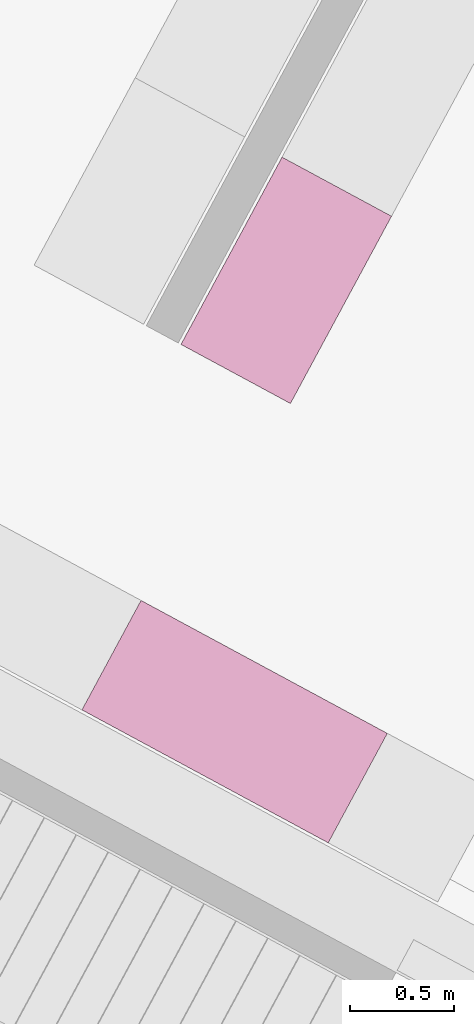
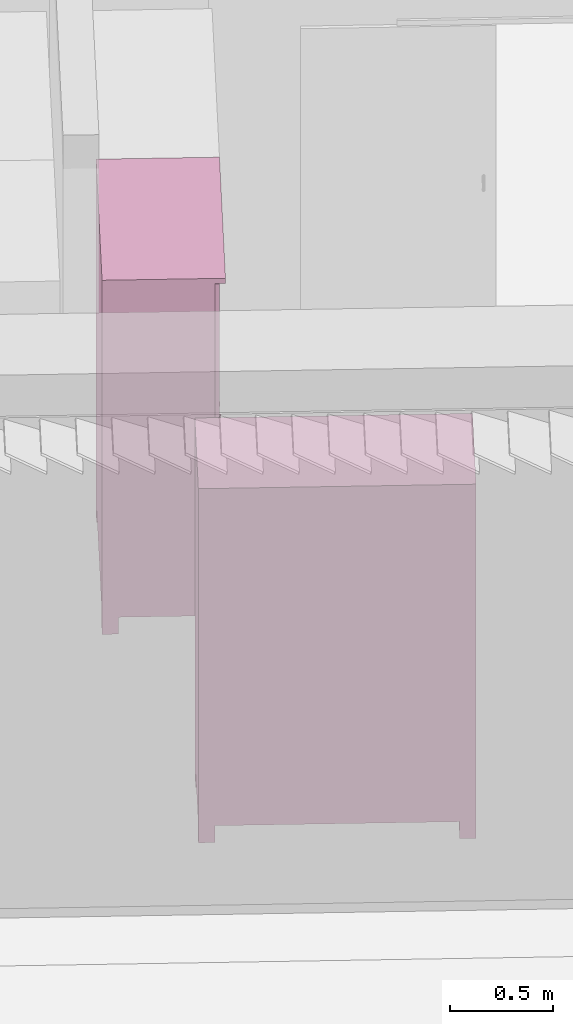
# One storey, part 28 of 41: 2 furnishings.
"""IFC2X3 building model written with IfcOpenShell, lengths in metres."""

from ifc_helpers import new_model, entity, si_unit, converted_unit, derived_unit, money_unit, direction, frame, origin_with_axes, place, context, subcontext, project, spatial, faceted_brep, type_object, element, save


model = new_model("IFC2X3")

# Units and contexts
model_context = context("Model", 3, precision=1e-05, world=origin_with_axes(), true_north=direction((0.0, 1.0)))
body_context = subcontext(model_context, "Body", "Model", "MODEL_VIEW")
ifc_project = project(units=[si_unit("LENGTHUNIT", "METRE"), si_unit("AREAUNIT", "SQUARE_METRE"), si_unit("VOLUMEUNIT", "CUBIC_METRE"), converted_unit("PLANEANGLEUNIT", "DEGREE", entity("IfcPlaneAngleMeasure", 0.0174532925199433), si_unit("PLANEANGLEUNIT", "RADIAN"), dimensions=[0, 0, 0, 0, 0, 0, 0]), money_unit("EUR"), converted_unit("TIMEUNIT", "Year", entity("IfcTimeMeasure", 31556926.0), si_unit("TIMEUNIT", "SECOND"), dimensions=[0, 0, 1, 0, 0, 0, 0]), si_unit("MASSUNIT", "GRAM", prefix="KILO"), si_unit("THERMODYNAMICTEMPERATUREUNIT", "DEGREE_CELSIUS"), si_unit("LUMINOUSINTENSITYUNIT", "LUMEN"), si_unit("ENERGYUNIT", "JOULE", prefix="MEGA"), derived_unit("THERMALCONDUCTANCEUNIT", [(si_unit("POWERUNIT", "WATT"), 1), (si_unit("LENGTHUNIT", "METRE"), -1), (si_unit("THERMODYNAMICTEMPERATUREUNIT", "KELVIN"), -1)]), derived_unit("SPECIFICHEATCAPACITYUNIT", [(si_unit("ENERGYUNIT", "JOULE"), 1), (si_unit("MASSUNIT", "GRAM", prefix="KILO"), -1), (si_unit("THERMODYNAMICTEMPERATUREUNIT", "KELVIN"), -1)]), derived_unit("MASSDENSITYUNIT", [(si_unit("MASSUNIT", "GRAM", prefix="KILO"), 1), (si_unit("VOLUMEUNIT", "CUBIC_METRE"), -1)])], contexts=[model_context])

# Site, building, storey
site_placement = place(None, frame((-3.949935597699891, 1.740105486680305, 0.0), z_axis=(0.0, 0.0, 1.0), x_axis=(0.8799804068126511, -0.475009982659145, 0.0)))
site = spatial("IfcSite", under=ifc_project, at=site_placement, Name="Gelände", CompositionType="ELEMENT")
building_placement = place(site_placement, origin_with_axes())
building = spatial("IfcBuilding", under=site, at=building_placement, Name="Gebäude", CompositionType="ELEMENT")
storey_placement = place(building_placement, frame((0.0, 0.0, 4.55), z_axis=(0.0, 0.0, 1.0), x_axis=(1.0, 0.0, 0.0)))
storey = spatial("IfcBuildingStorey", under=building, at=storey_placement, Name="Staffelgeschoss", CompositionType="ELEMENT", Elevation=4.55)

# Furnishings
furniture_type = type_object("IfcFurnitureType", Name="Kleiderschrank 22", AssemblyPlace="NOTDEFINED")
furnishing_1_placement = place(storey_placement, frame((17.20040854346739, 2.239992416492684, 0.0), z_axis=(0.0, 0.0, 1.0), x_axis=(-1.0, 0.0, 0.0)))
element("IfcFurnishingElement", 1, at=furnishing_1_placement, inside=storey, type_object=furniture_type, Name="Objekt-0066", ObjectType="FURNITURE", context=body_context, shape_type="Brep", body=[
    faceted_brep([(-0.02000000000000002, 0.6000000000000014, 0.12), (-0.02000000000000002, 0.6000000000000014, 2.05), (-0.02000000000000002, 0.5800000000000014, 2.05), (-0.02000000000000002, 0.5800000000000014, 0.12), (-1.330000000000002, 0.6000000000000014, 0.12), (-1.330000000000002, 0.6000000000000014, 2.05), (-1.330000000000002, 0.5800000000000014, 2.05), (-1.330000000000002, 0.5800000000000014, 0.12)], [[[0, 1, 2, 3]], [[4, 5, 1, 0]], [[1, 5, 6, 2]], [[3, 2, 6, 7]], [[0, 3, 7, 4]], [[7, 6, 5, 4]]]),
    faceted_brep([(-1.350000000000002, 0.05000000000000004, 0.1), (-1.350000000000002, 0.6000000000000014, 0.1), (-1.330000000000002, 0.6000000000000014, 0.1), (-1.330000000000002, 0.05000000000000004, 0.1), (-1.350000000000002, 0.05000000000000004, 2.07), (-1.350000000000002, 0.6000000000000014, 2.07), (-1.330000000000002, 0.6000000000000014, 2.07), (-1.330000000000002, 0.05000000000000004, 2.07)], [[[0, 1, 2, 3]], [[0, 4, 5, 1]], [[1, 5, 6, 2]], [[2, 6, 7, 3]], [[3, 7, 4, 0]], [[7, 6, 5, 4]]]),
    faceted_brep([(-0.02, 0.05000000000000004, 0.1), (-0.02, 0.6000000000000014, 0.1), (0.0, 0.6000000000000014, 0.1), (0.0, 0.05000000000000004, 0.1), (-0.02, 0.05000000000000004, 2.07), (-0.02, 0.6000000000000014, 2.07), (0.0, 0.6000000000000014, 2.07), (0.0, 0.05000000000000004, 2.07)], [[[0, 1, 2, 3]], [[0, 4, 5, 1]], [[1, 5, 6, 2]], [[2, 6, 7, 3]], [[3, 7, 4, 0]], [[7, 6, 5, 4]]]),
    faceted_brep([(-1.330000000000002, 0.05000000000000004, 0.1), (-1.330000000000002, 0.6000000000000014, 0.1), (-0.02000000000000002, 0.6000000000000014, 0.1), (-0.02000000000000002, 0.05000000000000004, 0.1), (-1.330000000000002, 0.05000000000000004, 0.12), (-1.330000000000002, 0.6000000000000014, 0.12), (-0.02000000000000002, 0.6000000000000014, 0.12), (-0.02000000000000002, 0.05000000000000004, 0.12)], [[[0, 1, 2, 3]], [[0, 4, 5, 1]], [[1, 5, 6, 2]], [[2, 6, 7, 3]], [[3, 7, 4, 0]], [[7, 6, 5, 4]]]),
    faceted_brep([(-1.330000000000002, 0.05000000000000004, 2.05), (-1.330000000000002, 0.6000000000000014, 2.05), (-0.02000000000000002, 0.6000000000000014, 2.05), (-0.02000000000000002, 0.05000000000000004, 2.05), (-1.330000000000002, 0.05000000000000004, 2.07), (-1.330000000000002, 0.6000000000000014, 2.07), (-0.02000000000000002, 0.6000000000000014, 2.07), (-0.02000000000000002, 0.05000000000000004, 2.07)], [[[0, 1, 2, 3]], [[0, 4, 5, 1]], [[1, 5, 6, 2]], [[2, 6, 7, 3]], [[3, 7, 4, 0]], [[7, 6, 5, 4]]]),
    faceted_brep([(-1.350000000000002, 0.6000000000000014, 2.07), (-1.350000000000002, 0.0, 2.07), (-1.350000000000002, 0.0, 2.1), (-1.350000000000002, 0.6000000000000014, 2.1), (0.0, 0.6000000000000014, 2.07), (0.0, 0.0, 2.07), (0.0, 0.0, 2.1), (0.0, 0.6000000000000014, 2.1)], [[[0, 1, 2, 3]], [[0, 4, 5, 1]], [[1, 5, 6, 2]], [[3, 2, 6, 7]], [[4, 0, 3, 7]], [[5, 4, 7, 6]]]),
    faceted_brep([(-0.08000000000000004, 0.5200000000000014, 0.0), (-0.08000000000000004, 0.5200000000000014, 0.1), (-0.08000000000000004, 0.6000000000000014, 0.1), (-0.08000000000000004, 0.6000000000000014, 0.0), (0.0, 0.5200000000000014, 0.0), (0.0, 0.5200000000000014, 0.1), (0.0, 0.6000000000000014, 0.1), (0.0, 0.6000000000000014, 0.0)], [[[0, 1, 2, 3]], [[4, 5, 1, 0]], [[1, 5, 6, 2]], [[3, 2, 6, 7]], [[0, 3, 7, 4]], [[7, 6, 5, 4]]]),
    faceted_brep([(-1.350000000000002, 0.5200000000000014, 0.0), (-1.350000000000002, 0.5200000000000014, 0.1), (-1.350000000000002, 0.6000000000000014, 0.1), (-1.350000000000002, 0.6000000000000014, 0.0), (-1.270000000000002, 0.5200000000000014, 0.0), (-1.270000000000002, 0.5200000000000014, 0.1), (-1.270000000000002, 0.6000000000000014, 0.1), (-1.270000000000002, 0.6000000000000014, 0.0)], [[[0, 1, 2, 3]], [[4, 5, 1, 0]], [[1, 5, 6, 2]], [[3, 2, 6, 7]], [[0, 3, 7, 4]], [[7, 6, 5, 4]]]),
    faceted_brep([(-0.08000000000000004, 0.05000000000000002, 0.0), (-0.08000000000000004, 0.05000000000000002, 0.1), (-0.08000000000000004, 0.13, 0.1), (-0.08000000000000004, 0.13, 0.0), (0.0, 0.05000000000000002, 0.0), (0.0, 0.05000000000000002, 0.1), (0.0, 0.13, 0.1), (0.0, 0.13, 0.0)], [[[0, 1, 2, 3]], [[4, 5, 1, 0]], [[1, 5, 6, 2]], [[3, 2, 6, 7]], [[0, 3, 7, 4]], [[7, 6, 5, 4]]]),
    faceted_brep([(-1.350000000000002, 0.05000000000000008, 0.0), (-1.350000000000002, 0.05000000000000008, 0.1), (-1.350000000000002, 0.1300000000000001, 0.1), (-1.350000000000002, 0.1300000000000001, 0.0), (-1.270000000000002, 0.05000000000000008, 0.0), (-1.270000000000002, 0.05000000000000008, 0.1), (-1.270000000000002, 0.1300000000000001, 0.1), (-1.270000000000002, 0.1300000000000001, 0.0)], [[[0, 1, 2, 3]], [[4, 5, 1, 0]], [[1, 5, 6, 2]], [[3, 2, 6, 7]], [[0, 3, 7, 4]], [[7, 6, 5, 4]]]),
    faceted_brep([(-0.6745000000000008, 0.05, 0.1104999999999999), (-0.6745000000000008, 0.03, 0.1104999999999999), (-0.6745000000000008, 0.03000000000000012, 2.0595), (-0.6745000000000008, 0.05000000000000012, 2.0595), (-0.6445000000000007, 0.05, 0.1405), (-0.6445000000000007, 0.03000000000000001, 0.1405), (-0.6445000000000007, 0.03000000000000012, 2.0295), (-0.6445000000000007, 0.05000000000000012, 2.0295)], [[[0, 1, 2, 3]], [[4, 5, 1, 0]], [[1, 5, 6, 2]], [[3, 2, 6, 7]], [[0, 3, 7, 4]], [[7, 6, 5, 4]]]),
    faceted_brep([(-0.04050000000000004, 0.05, 0.1405), (-0.04050000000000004, 0.03000000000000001, 0.1405), (-0.04050000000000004, 0.03000000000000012, 2.0295), (-0.04050000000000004, 0.05000000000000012, 2.0295), (-0.01050000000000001, 0.05, 0.1104999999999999), (-0.01050000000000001, 0.03, 0.1104999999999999), (-0.01050000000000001, 0.03000000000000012, 2.0595), (-0.01050000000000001, 0.05000000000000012, 2.0595)], [[[0, 1, 2, 3]], [[4, 5, 1, 0]], [[1, 5, 6, 2]], [[3, 2, 6, 7]], [[0, 3, 7, 4]], [[7, 6, 5, 4]]]),
    faceted_brep([(-0.01050000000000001, 0.05, 0.1104999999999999), (-0.01050000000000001, 0.03, 0.1104999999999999), (-0.6745000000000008, 0.03, 0.1104999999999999), (-0.6745000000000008, 0.05, 0.1104999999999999), (-0.04050000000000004, 0.05, 0.1405), (-0.04050000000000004, 0.03000000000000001, 0.1405), (-0.6445000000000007, 0.03000000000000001, 0.1405), (-0.6445000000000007, 0.05, 0.1405)], [[[0, 1, 2, 3]], [[4, 5, 1, 0]], [[1, 5, 6, 2]], [[3, 2, 6, 7]], [[0, 3, 7, 4]], [[7, 6, 5, 4]]]),
    faceted_brep([(-0.04050000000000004, 0.05000000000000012, 2.0295), (-0.04050000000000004, 0.03000000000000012, 2.0295), (-0.6445000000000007, 0.03000000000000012, 2.0295), (-0.6445000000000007, 0.05000000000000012, 2.0295), (-0.01050000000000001, 0.05000000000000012, 2.0595), (-0.01050000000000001, 0.03000000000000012, 2.0595), (-0.6745000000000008, 0.03000000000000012, 2.0595), (-0.6745000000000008, 0.05000000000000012, 2.0595)], [[[0, 1, 2, 3]], [[4, 5, 1, 0]], [[1, 5, 6, 2]], [[3, 2, 6, 7]], [[0, 3, 7, 4]], [[7, 6, 5, 4]]]),
    faceted_brep([(-0.6445000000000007, 0.04500000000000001, 0.1405), (-0.6445000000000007, 0.035, 0.1405), (-0.6445000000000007, 0.03500000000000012, 2.0295), (-0.6445000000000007, 0.04500000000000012, 2.0295), (-0.04050000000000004, 0.04500000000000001, 0.1405), (-0.04050000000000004, 0.035, 0.1405), (-0.04050000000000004, 0.03500000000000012, 2.0295), (-0.04050000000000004, 0.04500000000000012, 2.0295)], [[[0, 1, 2, 3]], [[4, 5, 1, 0]], [[1, 5, 6, 2]], [[3, 2, 6, 7]], [[0, 3, 7, 4]], [[7, 6, 5, 4]]]),
    faceted_brep([(-0.6343923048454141, 0.035, 0.954), (-0.6360000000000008, 0.035, 0.96), (-0.6343923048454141, 0.035, 0.966), (-0.6300000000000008, 0.035, 0.9703923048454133), (-0.6240000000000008, 0.035, 0.972), (-0.6180000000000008, 0.035, 0.9703923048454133), (-0.6136076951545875, 0.035, 0.966), (-0.6120000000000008, 0.035, 0.96), (-0.6136076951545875, 0.035, 0.954), (-0.6180000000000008, 0.035, 0.9496076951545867), (-0.6240000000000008, 0.035, 0.948), (-0.6300000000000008, 0.035, 0.9496076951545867), (-0.6343923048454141, 0.01, 0.954), (-0.6360000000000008, 0.01, 0.96), (-0.6343923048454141, 0.01, 0.966), (-0.6300000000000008, 0.01, 0.9703923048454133), (-0.6240000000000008, 0.01, 0.972), (-0.6180000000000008, 0.01, 0.9703923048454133), (-0.6136076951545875, 0.01, 0.966), (-0.6120000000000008, 0.01, 0.96), (-0.6136076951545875, 0.01, 0.954), (-0.6180000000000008, 0.01, 0.9496076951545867), (-0.6240000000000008, 0.01, 0.948), (-0.6300000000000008, 0.01, 0.9496076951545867)], [[[0, 1, 2, 3, 4, 5, 6, 7, 8, 9, 10, 11]], [[0, 12, 13, 1]], [[1, 13, 14, 2]], [[2, 14, 15, 3]], [[3, 15, 16, 4]], [[4, 16, 17, 5]], [[5, 17, 18, 6]], [[6, 18, 19, 7]], [[7, 19, 20, 8]], [[8, 20, 21, 9]], [[9, 21, 22, 10]], [[10, 22, 23, 11]], [[11, 23, 12, 0]], [[12, 23, 22, 21, 20, 19, 18, 17, 16, 15, 14, 13]]]),
    faceted_brep([(-1.340500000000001, 0.05, 0.1104999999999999), (-1.340500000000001, 0.03, 0.1104999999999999), (-1.340500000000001, 0.03000000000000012, 2.0595), (-1.340500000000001, 0.05000000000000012, 2.0595), (-1.310500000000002, 0.05, 0.1405), (-1.310500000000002, 0.03000000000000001, 0.1405), (-1.310500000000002, 0.03000000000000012, 2.0295), (-1.310500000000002, 0.05000000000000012, 2.0295)], [[[0, 1, 2, 3]], [[4, 5, 1, 0]], [[1, 5, 6, 2]], [[3, 2, 6, 7]], [[0, 3, 7, 4]], [[7, 6, 5, 4]]]),
    faceted_brep([(-0.7065000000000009, 0.05, 0.1405), (-0.7065000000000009, 0.03000000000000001, 0.1405), (-0.7065000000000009, 0.03000000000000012, 2.0295), (-0.7065000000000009, 0.05000000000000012, 2.0295), (-0.6765000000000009, 0.05, 0.1104999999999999), (-0.6765000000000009, 0.03, 0.1104999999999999), (-0.6765000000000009, 0.03000000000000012, 2.0595), (-0.6765000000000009, 0.05000000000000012, 2.0595)], [[[0, 1, 2, 3]], [[4, 5, 1, 0]], [[1, 5, 6, 2]], [[3, 2, 6, 7]], [[0, 3, 7, 4]], [[7, 6, 5, 4]]]),
    faceted_brep([(-0.6765000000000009, 0.05, 0.1104999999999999), (-0.6765000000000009, 0.03, 0.1104999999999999), (-1.340500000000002, 0.03, 0.1104999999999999), (-1.340500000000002, 0.05, 0.1104999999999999), (-0.7065000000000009, 0.05, 0.1405), (-0.7065000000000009, 0.03000000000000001, 0.1405), (-1.310500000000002, 0.03000000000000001, 0.1405), (-1.310500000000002, 0.05, 0.1405)], [[[0, 1, 2, 3]], [[4, 5, 1, 0]], [[1, 5, 6, 2]], [[3, 2, 6, 7]], [[0, 3, 7, 4]], [[7, 6, 5, 4]]]),
    faceted_brep([(-0.7065000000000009, 0.05000000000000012, 2.0295), (-0.7065000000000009, 0.03000000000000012, 2.0295), (-1.310500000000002, 0.03000000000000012, 2.0295), (-1.310500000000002, 0.05000000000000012, 2.0295), (-0.6765000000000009, 0.05000000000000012, 2.0595), (-0.6765000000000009, 0.03000000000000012, 2.0595), (-1.340500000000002, 0.03000000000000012, 2.0595), (-1.340500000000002, 0.05000000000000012, 2.0595)], [[[0, 1, 2, 3]], [[4, 5, 1, 0]], [[1, 5, 6, 2]], [[3, 2, 6, 7]], [[0, 3, 7, 4]], [[7, 6, 5, 4]]]),
    faceted_brep([(-1.310500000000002, 0.04500000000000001, 0.1405), (-1.310500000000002, 0.04000000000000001, 0.1405), (-1.310500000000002, 0.04000000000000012, 2.0295), (-1.310500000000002, 0.04500000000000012, 2.0295), (-0.7065000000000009, 0.04500000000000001, 0.1405), (-0.7065000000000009, 0.04000000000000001, 0.1405), (-0.7065000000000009, 0.04000000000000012, 2.0295), (-0.7065000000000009, 0.04500000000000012, 2.0295)], [[[0, 1, 2, 3]], [[4, 5, 1, 0]], [[1, 5, 6, 2]], [[3, 2, 6, 7]], [[0, 3, 7, 4]], [[7, 6, 5, 4]]]),
    faceted_brep([(-1.310500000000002, 0.04000000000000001, 0.1405), (-1.310500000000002, 0.03500000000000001, 0.1405), (-1.310500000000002, 0.03500000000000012, 2.0295), (-1.310500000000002, 0.04000000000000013, 2.0295), (-0.7065000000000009, 0.04000000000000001, 0.1405), (-0.7065000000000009, 0.03500000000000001, 0.1405), (-0.7065000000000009, 0.03500000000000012, 2.0295), (-0.7065000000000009, 0.04000000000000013, 2.0295)], [[[0, 1, 2, 3]], [[4, 5, 1, 0]], [[1, 5, 6, 2]], [[3, 2, 6, 7]], [[0, 3, 7, 4]], [[7, 6, 5, 4]]]),
    faceted_brep([(-0.7156076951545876, 0.035, 0.954), (-0.7200000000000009, 0.035, 0.9496076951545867), (-0.7260000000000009, 0.035, 0.948), (-0.7320000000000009, 0.035, 0.9496076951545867), (-0.7363923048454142, 0.035, 0.954), (-0.7380000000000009, 0.035, 0.96), (-0.7363923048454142, 0.035, 0.966), (-0.7320000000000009, 0.035, 0.9703923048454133), (-0.7260000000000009, 0.035, 0.972), (-0.7200000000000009, 0.035, 0.9703923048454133), (-0.7156076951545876, 0.035, 0.966), (-0.7140000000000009, 0.035, 0.96), (-0.7156076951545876, 0.01, 0.954), (-0.7200000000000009, 0.01, 0.9496076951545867), (-0.7260000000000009, 0.01, 0.948), (-0.7320000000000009, 0.01, 0.9496076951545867), (-0.7363923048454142, 0.01, 0.954), (-0.7380000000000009, 0.01, 0.96), (-0.7363923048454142, 0.01, 0.966), (-0.7320000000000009, 0.01, 0.9703923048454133), (-0.7260000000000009, 0.01, 0.972), (-0.7200000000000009, 0.01, 0.9703923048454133), (-0.7156076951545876, 0.01, 0.966), (-0.7140000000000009, 0.01, 0.96)], [[[0, 1, 2, 3, 4, 5, 6, 7, 8, 9, 10, 11]], [[1, 0, 12, 13]], [[2, 1, 13, 14]], [[3, 2, 14, 15]], [[4, 3, 15, 16]], [[5, 4, 16, 17]], [[6, 5, 17, 18]], [[7, 6, 18, 19]], [[8, 7, 19, 20]], [[9, 8, 20, 21]], [[10, 9, 21, 22]], [[11, 10, 22, 23]], [[0, 11, 23, 12]], [[12, 23, 22, 21, 20, 19, 18, 17, 16, 15, 14, 13]]]),
])
furnishing_2_placement = place(storey_placement, frame((17.38349488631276, 4.444526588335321, 0.0), z_axis=(0.0, 0.0, 1.0), x_axis=(0.0, 1.0, 0.0)))
element("IfcFurnishingElement", 2, at=furnishing_2_placement, inside=storey, type_object=furniture_type, Name="Objekt-0066", ObjectType="FURNITURE", context=body_context, shape_type="Brep", body=[
    faceted_brep([(-0.02000000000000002, 0.6000000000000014, 0.12), (-0.02000000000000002, 0.6000000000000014, 2.05), (-0.02000000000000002, 0.5800000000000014, 2.05), (-0.02000000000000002, 0.5800000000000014, 0.12), (-1.006465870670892, 0.6000000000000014, 0.12), (-1.006465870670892, 0.6000000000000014, 2.05), (-1.006465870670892, 0.5800000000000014, 2.05), (-1.006465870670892, 0.5800000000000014, 0.12)], [[[0, 1, 2, 3]], [[4, 5, 1, 0]], [[1, 5, 6, 2]], [[3, 2, 6, 7]], [[0, 3, 7, 4]], [[7, 6, 5, 4]]]),
    faceted_brep([(-1.026465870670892, 0.05000000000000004, 0.1), (-1.026465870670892, 0.6000000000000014, 0.1), (-1.006465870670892, 0.6000000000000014, 0.1), (-1.006465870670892, 0.05000000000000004, 0.1), (-1.026465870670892, 0.05000000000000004, 2.07), (-1.026465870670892, 0.6000000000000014, 2.07), (-1.006465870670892, 0.6000000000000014, 2.07), (-1.006465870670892, 0.05000000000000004, 2.07)], [[[0, 1, 2, 3]], [[0, 4, 5, 1]], [[1, 5, 6, 2]], [[2, 6, 7, 3]], [[3, 7, 4, 0]], [[7, 6, 5, 4]]]),
    faceted_brep([(-0.02, 0.05000000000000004, 0.1), (-0.02, 0.6000000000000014, 0.1), (0.0, 0.6000000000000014, 0.1), (0.0, 0.05000000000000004, 0.1), (-0.02, 0.05000000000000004, 2.07), (-0.02, 0.6000000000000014, 2.07), (0.0, 0.6000000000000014, 2.07), (0.0, 0.05000000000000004, 2.07)], [[[0, 1, 2, 3]], [[0, 4, 5, 1]], [[1, 5, 6, 2]], [[2, 6, 7, 3]], [[3, 7, 4, 0]], [[7, 6, 5, 4]]]),
    faceted_brep([(-1.006465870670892, 0.05000000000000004, 0.1), (-1.006465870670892, 0.6000000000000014, 0.1), (-0.02000000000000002, 0.6000000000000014, 0.1), (-0.02000000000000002, 0.05000000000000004, 0.1), (-1.006465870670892, 0.05000000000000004, 0.12), (-1.006465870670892, 0.6000000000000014, 0.12), (-0.02000000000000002, 0.6000000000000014, 0.12), (-0.02000000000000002, 0.05000000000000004, 0.12)], [[[0, 1, 2, 3]], [[0, 4, 5, 1]], [[1, 5, 6, 2]], [[2, 6, 7, 3]], [[3, 7, 4, 0]], [[7, 6, 5, 4]]]),
    faceted_brep([(-1.006465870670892, 0.05000000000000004, 2.05), (-1.006465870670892, 0.6000000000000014, 2.05), (-0.02000000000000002, 0.6000000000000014, 2.05), (-0.02000000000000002, 0.05000000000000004, 2.05), (-1.006465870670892, 0.05000000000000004, 2.07), (-1.006465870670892, 0.6000000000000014, 2.07), (-0.02000000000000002, 0.6000000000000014, 2.07), (-0.02000000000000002, 0.05000000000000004, 2.07)], [[[0, 1, 2, 3]], [[0, 4, 5, 1]], [[1, 5, 6, 2]], [[2, 6, 7, 3]], [[3, 7, 4, 0]], [[7, 6, 5, 4]]]),
    faceted_brep([(-1.026465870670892, 0.6000000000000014, 2.07), (-1.026465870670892, 0.0, 2.07), (-1.026465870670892, 0.0, 2.1), (-1.026465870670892, 0.6000000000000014, 2.1), (0.0, 0.6000000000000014, 2.07), (0.0, 0.0, 2.07), (0.0, 0.0, 2.1), (0.0, 0.6000000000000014, 2.1)], [[[0, 1, 2, 3]], [[0, 4, 5, 1]], [[1, 5, 6, 2]], [[3, 2, 6, 7]], [[4, 0, 3, 7]], [[5, 4, 7, 6]]]),
    faceted_brep([(-0.07999999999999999, 0.5200000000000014, 0.0), (-0.07999999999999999, 0.5200000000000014, 0.1), (-0.07999999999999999, 0.6000000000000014, 0.1), (-0.07999999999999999, 0.6000000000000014, 0.0), (0.0, 0.5200000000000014, 0.0), (0.0, 0.5200000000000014, 0.1), (0.0, 0.6000000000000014, 0.1), (0.0, 0.6000000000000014, 0.0)], [[[0, 1, 2, 3]], [[4, 5, 1, 0]], [[1, 5, 6, 2]], [[3, 2, 6, 7]], [[0, 3, 7, 4]], [[7, 6, 5, 4]]]),
    faceted_brep([(-1.026465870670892, 0.5200000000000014, 0.0), (-1.026465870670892, 0.5200000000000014, 0.1), (-1.026465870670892, 0.6000000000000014, 0.1), (-1.026465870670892, 0.6000000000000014, 0.0), (-0.9464658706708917, 0.5200000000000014, 0.0), (-0.9464658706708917, 0.5200000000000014, 0.1), (-0.9464658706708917, 0.6000000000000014, 0.1), (-0.9464658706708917, 0.6000000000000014, 0.0)], [[[0, 1, 2, 3]], [[4, 5, 1, 0]], [[1, 5, 6, 2]], [[3, 2, 6, 7]], [[0, 3, 7, 4]], [[7, 6, 5, 4]]]),
    faceted_brep([(-0.07999999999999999, 0.05000000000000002, 0.0), (-0.07999999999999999, 0.05000000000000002, 0.1), (-0.07999999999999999, 0.13, 0.1), (-0.07999999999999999, 0.13, 0.0), (0.0, 0.05000000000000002, 0.0), (0.0, 0.05000000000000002, 0.1), (0.0, 0.13, 0.1), (0.0, 0.13, 0.0)], [[[0, 1, 2, 3]], [[4, 5, 1, 0]], [[1, 5, 6, 2]], [[3, 2, 6, 7]], [[0, 3, 7, 4]], [[7, 6, 5, 4]]]),
    faceted_brep([(-1.026465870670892, 0.05000000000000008, 0.0), (-1.026465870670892, 0.05000000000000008, 0.1), (-1.026465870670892, 0.1300000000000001, 0.1), (-1.026465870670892, 0.1300000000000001, 0.0), (-0.9464658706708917, 0.05000000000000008, 0.0), (-0.9464658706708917, 0.05000000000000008, 0.1), (-0.9464658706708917, 0.1300000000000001, 0.1), (-0.9464658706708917, 0.1300000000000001, 0.0)], [[[0, 1, 2, 3]], [[4, 5, 1, 0]], [[1, 5, 6, 2]], [[3, 2, 6, 7]], [[0, 3, 7, 4]], [[7, 6, 5, 4]]]),
    faceted_brep([(-0.512732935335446, 0.05, 0.1104999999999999), (-0.512732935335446, 0.03, 0.1104999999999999), (-0.512732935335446, 0.03000000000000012, 2.0595), (-0.512732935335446, 0.05000000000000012, 2.0595), (-0.4827329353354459, 0.05, 0.1405), (-0.4827329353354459, 0.03000000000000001, 0.1405), (-0.4827329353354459, 0.03000000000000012, 2.0295), (-0.4827329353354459, 0.05000000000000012, 2.0295)], [[[0, 1, 2, 3]], [[4, 5, 1, 0]], [[1, 5, 6, 2]], [[3, 2, 6, 7]], [[0, 3, 7, 4]], [[7, 6, 5, 4]]]),
    faceted_brep([(-0.04050000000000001, 0.05, 0.1405), (-0.04050000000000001, 0.03000000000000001, 0.1405), (-0.04050000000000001, 0.03000000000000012, 2.0295), (-0.04050000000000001, 0.05000000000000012, 2.0295), (-0.01050000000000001, 0.05, 0.1104999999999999), (-0.01050000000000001, 0.03, 0.1104999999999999), (-0.01050000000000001, 0.03000000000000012, 2.0595), (-0.01050000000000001, 0.05000000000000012, 2.0595)], [[[0, 1, 2, 3]], [[4, 5, 1, 0]], [[1, 5, 6, 2]], [[3, 2, 6, 7]], [[0, 3, 7, 4]], [[7, 6, 5, 4]]]),
    faceted_brep([(-0.01050000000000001, 0.05, 0.1104999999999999), (-0.01050000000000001, 0.03, 0.1104999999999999), (-0.512732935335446, 0.03, 0.1104999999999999), (-0.512732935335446, 0.05, 0.1104999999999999), (-0.04050000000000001, 0.05, 0.1405), (-0.04050000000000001, 0.03000000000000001, 0.1405), (-0.4827329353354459, 0.03000000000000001, 0.1405), (-0.4827329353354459, 0.05, 0.1405)], [[[0, 1, 2, 3]], [[4, 5, 1, 0]], [[1, 5, 6, 2]], [[3, 2, 6, 7]], [[0, 3, 7, 4]], [[7, 6, 5, 4]]]),
    faceted_brep([(-0.04050000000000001, 0.05000000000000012, 2.0295), (-0.04050000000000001, 0.03000000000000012, 2.0295), (-0.4827329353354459, 0.03000000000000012, 2.0295), (-0.4827329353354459, 0.05000000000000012, 2.0295), (-0.01050000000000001, 0.05000000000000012, 2.0595), (-0.01050000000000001, 0.03000000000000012, 2.0595), (-0.512732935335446, 0.03000000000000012, 2.0595), (-0.512732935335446, 0.05000000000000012, 2.0595)], [[[0, 1, 2, 3]], [[4, 5, 1, 0]], [[1, 5, 6, 2]], [[3, 2, 6, 7]], [[0, 3, 7, 4]], [[7, 6, 5, 4]]]),
    faceted_brep([(-0.4827329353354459, 0.04500000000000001, 0.1405), (-0.4827329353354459, 0.035, 0.1405), (-0.4827329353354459, 0.03500000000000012, 2.0295), (-0.4827329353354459, 0.04500000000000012, 2.0295), (-0.04050000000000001, 0.04500000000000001, 0.1405), (-0.04050000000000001, 0.035, 0.1405), (-0.04050000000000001, 0.03500000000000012, 2.0295), (-0.04050000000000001, 0.04500000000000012, 2.0295)], [[[0, 1, 2, 3]], [[4, 5, 1, 0]], [[1, 5, 6, 2]], [[3, 2, 6, 7]], [[0, 3, 7, 4]], [[7, 6, 5, 4]]]),
    faceted_brep([(-0.4726252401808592, 0.035, 0.954), (-0.4742329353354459, 0.035, 0.96), (-0.4726252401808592, 0.035, 0.966), (-0.4682329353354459, 0.035, 0.9703923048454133), (-0.4622329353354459, 0.035, 0.972), (-0.4562329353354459, 0.035, 0.9703923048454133), (-0.4518406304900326, 0.035, 0.966), (-0.4502329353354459, 0.035, 0.96), (-0.4518406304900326, 0.035, 0.954), (-0.4562329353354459, 0.035, 0.9496076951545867), (-0.4622329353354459, 0.035, 0.948), (-0.4682329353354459, 0.035, 0.9496076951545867), (-0.4726252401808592, 0.01, 0.954), (-0.4742329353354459, 0.01, 0.96), (-0.4726252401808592, 0.01, 0.966), (-0.4682329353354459, 0.01, 0.9703923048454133), (-0.4622329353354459, 0.01, 0.972), (-0.4562329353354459, 0.01, 0.9703923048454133), (-0.4518406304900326, 0.01, 0.966), (-0.4502329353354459, 0.01, 0.96), (-0.4518406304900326, 0.01, 0.954), (-0.4562329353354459, 0.01, 0.9496076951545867), (-0.4622329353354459, 0.01, 0.948), (-0.4682329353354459, 0.01, 0.9496076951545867)], [[[0, 1, 2, 3, 4, 5, 6, 7, 8, 9, 10, 11]], [[0, 12, 13, 1]], [[1, 13, 14, 2]], [[2, 14, 15, 3]], [[3, 15, 16, 4]], [[4, 16, 17, 5]], [[5, 17, 18, 6]], [[6, 18, 19, 7]], [[7, 19, 20, 8]], [[8, 20, 21, 9]], [[9, 21, 22, 10]], [[10, 22, 23, 11]], [[11, 23, 12, 0]], [[12, 23, 22, 21, 20, 19, 18, 17, 16, 15, 14, 13]]]),
    faceted_brep([(-1.016965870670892, 0.05, 0.1104999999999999), (-1.016965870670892, 0.03, 0.1104999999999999), (-1.016965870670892, 0.03000000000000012, 2.0595), (-1.016965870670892, 0.05000000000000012, 2.0595), (-0.9869658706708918, 0.05, 0.1405), (-0.9869658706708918, 0.03000000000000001, 0.1405), (-0.9869658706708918, 0.03000000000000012, 2.0295), (-0.9869658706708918, 0.05000000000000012, 2.0295)], [[[0, 1, 2, 3]], [[4, 5, 1, 0]], [[1, 5, 6, 2]], [[3, 2, 6, 7]], [[0, 3, 7, 4]], [[7, 6, 5, 4]]]),
    faceted_brep([(-0.5447329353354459, 0.05, 0.1405), (-0.5447329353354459, 0.03000000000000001, 0.1405), (-0.5447329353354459, 0.03000000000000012, 2.0295), (-0.5447329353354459, 0.05000000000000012, 2.0295), (-0.514732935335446, 0.05, 0.1104999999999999), (-0.514732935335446, 0.03, 0.1104999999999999), (-0.514732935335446, 0.03000000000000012, 2.0595), (-0.514732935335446, 0.05000000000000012, 2.0595)], [[[0, 1, 2, 3]], [[4, 5, 1, 0]], [[1, 5, 6, 2]], [[3, 2, 6, 7]], [[0, 3, 7, 4]], [[7, 6, 5, 4]]]),
    faceted_brep([(-0.514732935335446, 0.05, 0.1104999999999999), (-0.514732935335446, 0.03, 0.1104999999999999), (-1.016965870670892, 0.03, 0.1104999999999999), (-1.016965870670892, 0.05, 0.1104999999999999), (-0.5447329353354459, 0.05, 0.1405), (-0.5447329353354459, 0.03000000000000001, 0.1405), (-0.9869658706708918, 0.03000000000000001, 0.1405), (-0.9869658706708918, 0.05, 0.1405)], [[[0, 1, 2, 3]], [[4, 5, 1, 0]], [[1, 5, 6, 2]], [[3, 2, 6, 7]], [[0, 3, 7, 4]], [[7, 6, 5, 4]]]),
    faceted_brep([(-0.5447329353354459, 0.05000000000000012, 2.0295), (-0.5447329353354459, 0.03000000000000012, 2.0295), (-0.9869658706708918, 0.03000000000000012, 2.0295), (-0.9869658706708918, 0.05000000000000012, 2.0295), (-0.514732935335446, 0.05000000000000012, 2.0595), (-0.514732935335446, 0.03000000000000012, 2.0595), (-1.016965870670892, 0.03000000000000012, 2.0595), (-1.016965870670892, 0.05000000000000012, 2.0595)], [[[0, 1, 2, 3]], [[4, 5, 1, 0]], [[1, 5, 6, 2]], [[3, 2, 6, 7]], [[0, 3, 7, 4]], [[7, 6, 5, 4]]]),
    faceted_brep([(-0.9869658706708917, 0.04500000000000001, 0.1405), (-0.9869658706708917, 0.04000000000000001, 0.1405), (-0.9869658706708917, 0.04000000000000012, 2.0295), (-0.9869658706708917, 0.04500000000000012, 2.0295), (-0.5447329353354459, 0.04500000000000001, 0.1405), (-0.5447329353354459, 0.04000000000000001, 0.1405), (-0.5447329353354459, 0.04000000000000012, 2.0295), (-0.5447329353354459, 0.04500000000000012, 2.0295)], [[[0, 1, 2, 3]], [[4, 5, 1, 0]], [[1, 5, 6, 2]], [[3, 2, 6, 7]], [[0, 3, 7, 4]], [[7, 6, 5, 4]]]),
    faceted_brep([(-0.9869658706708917, 0.04000000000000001, 0.1405), (-0.9869658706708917, 0.03500000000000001, 0.1405), (-0.9869658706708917, 0.03500000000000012, 2.0295), (-0.9869658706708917, 0.04000000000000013, 2.0295), (-0.5447329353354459, 0.04000000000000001, 0.1405), (-0.5447329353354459, 0.03500000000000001, 0.1405), (-0.5447329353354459, 0.03500000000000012, 2.0295), (-0.5447329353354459, 0.04000000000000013, 2.0295)], [[[0, 1, 2, 3]], [[4, 5, 1, 0]], [[1, 5, 6, 2]], [[3, 2, 6, 7]], [[0, 3, 7, 4]], [[7, 6, 5, 4]]]),
    faceted_brep([(-0.5538406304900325, 0.035, 0.954), (-0.5582329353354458, 0.035, 0.9496076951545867), (-0.5642329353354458, 0.035, 0.948), (-0.5702329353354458, 0.035, 0.9496076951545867), (-0.5746252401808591, 0.035, 0.954), (-0.5762329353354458, 0.035, 0.96), (-0.5746252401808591, 0.035, 0.966), (-0.5702329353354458, 0.035, 0.9703923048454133), (-0.5642329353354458, 0.035, 0.972), (-0.5582329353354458, 0.035, 0.9703923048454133), (-0.5538406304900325, 0.035, 0.966), (-0.5522329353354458, 0.035, 0.96), (-0.5538406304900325, 0.01, 0.954), (-0.5582329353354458, 0.01, 0.9496076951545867), (-0.5642329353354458, 0.01, 0.948), (-0.5702329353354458, 0.01, 0.9496076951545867), (-0.5746252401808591, 0.01, 0.954), (-0.5762329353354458, 0.01, 0.96), (-0.5746252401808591, 0.01, 0.966), (-0.5702329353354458, 0.01, 0.9703923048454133), (-0.5642329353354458, 0.01, 0.972), (-0.5582329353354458, 0.01, 0.9703923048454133), (-0.5538406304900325, 0.01, 0.966), (-0.5522329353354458, 0.01, 0.96)], [[[0, 1, 2, 3, 4, 5, 6, 7, 8, 9, 10, 11]], [[1, 0, 12, 13]], [[2, 1, 13, 14]], [[3, 2, 14, 15]], [[4, 3, 15, 16]], [[5, 4, 16, 17]], [[6, 5, 17, 18]], [[7, 6, 18, 19]], [[8, 7, 19, 20]], [[9, 8, 20, 21]], [[10, 9, 21, 22]], [[11, 10, 22, 23]], [[0, 11, 23, 12]], [[12, 23, 22, 21, 20, 19, 18, 17, 16, 15, 14, 13]]]),
])

save(model, "model.ifc")
